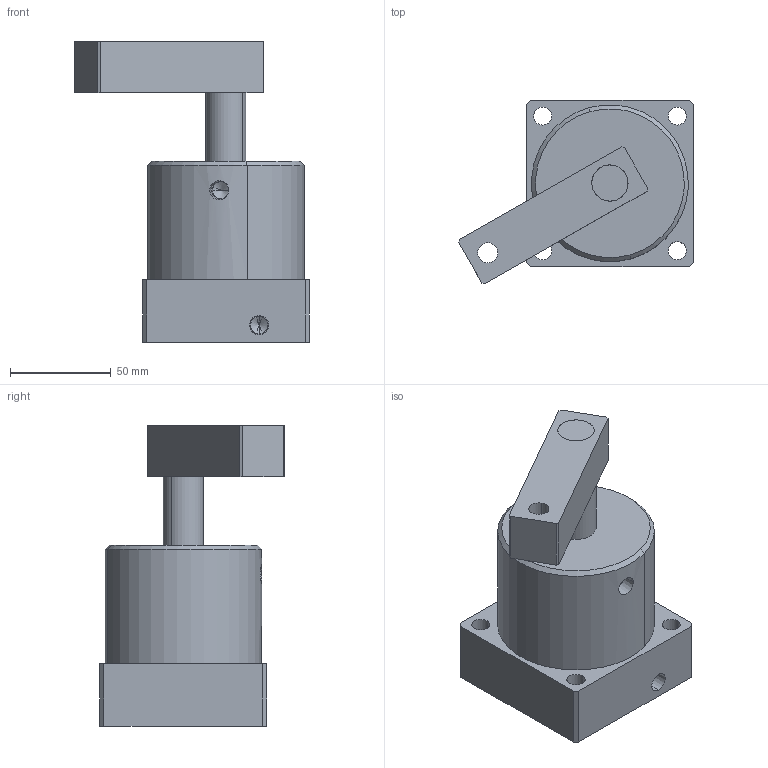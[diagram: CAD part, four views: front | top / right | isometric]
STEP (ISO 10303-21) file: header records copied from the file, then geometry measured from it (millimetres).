
FILE_DESCRIPTION (( 'STEP AP203' ), '1' );
FILE_NAME ('One side clamp ø63.STEP', '2010-02-18T14:29:09', ( 'Christophe Gaillard' ), ( 'SGA' ), 'SwSTEP 2.0', 'SolidWorks 2007', '' );
FILE_SCHEMA (( 'CONFIG_CONTROL_DESIGN' ));
Length unit declared in the file: millimetre
Products named in the file (6): Base One clamp ø63_Défaut; One side clamp ø63; Bride One-clamp ø63_Défaut; Corps One-clamp ø63_Défaut; Tige one-clamp ø63_Défaut; Fix Tige-Clamp ø63_Défaut
Assembly tree (5 placements, depth 2):
  One side clamp ø63
    Corps One-clamp ø63_Défaut
    Fix Tige-Clamp ø63_Défaut
    Tige one-clamp ø63_Défaut
    Bride One-clamp ø63_Défaut
    Base One clamp ø63_Défaut
Bounding box: 116.77 x 91.7 x 149.4 mm (x, y, z)
Volume: 554344.5 mm3; surface area: 80095.2 mm2
Topology: 5 solids, 5 shells, 82 faces, 188 edges, 119 vertices
Faces by surface type: cylinder 36, plane 32, cone 14
Entity records: 3016 total; most frequent: CARTESIAN_POINT 455, DIRECTION 442, ORIENTED_EDGE 364, EDGE_CURVE 182, AXIS2_PLACEMENT_3D 172, VERTEX_POINT 119, EDGE_LOOP 107, VECTOR 98
